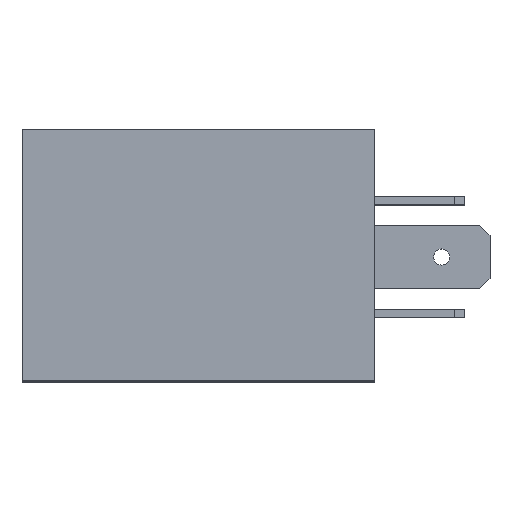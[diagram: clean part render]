
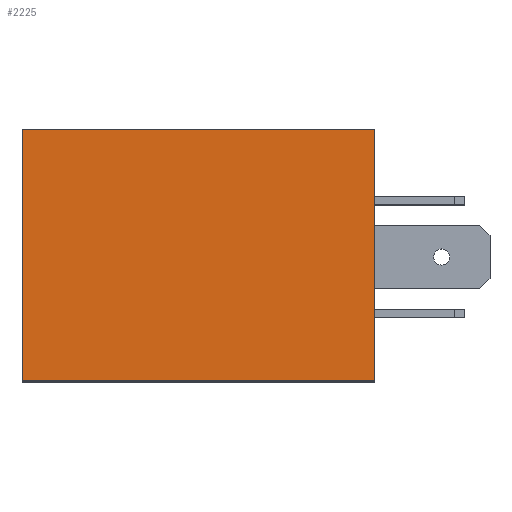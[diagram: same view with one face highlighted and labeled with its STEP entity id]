
A CAD part, top view. The second image highlights one B-rep face of the part: STEP entity #2225.
In plain terms, the highlighted planar face has unit normal (0, 0, 1).
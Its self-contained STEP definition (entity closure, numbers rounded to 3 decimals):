
#2095=CARTESIAN_POINT('',(17.49,-12.49,41.5));
#2096=VERTEX_POINT('',#2095);
#2097=CARTESIAN_POINT('',(-17.49,-12.49,41.5));
#2098=VERTEX_POINT('',#2097);
#2099=CARTESIAN_POINT('',(17.49,-12.49,41.5));
#2100=DIRECTION('',(-1.0,0.0,0.0));
#2101=VECTOR('',#2100,34.98);
#2102=LINE('',#2099,#2101);
#2103=EDGE_CURVE('',#2096,#2098,#2102,.T.);
#2135=CARTESIAN_POINT('',(-17.49,12.49,41.5));
#2136=VERTEX_POINT('',#2135);
#2137=CARTESIAN_POINT('',(-17.49,-12.49,41.5));
#2138=DIRECTION('',(0.0,1.0,0.0));
#2139=VECTOR('',#2138,24.98);
#2140=LINE('',#2137,#2139);
#2141=EDGE_CURVE('',#2098,#2136,#2140,.T.);
#2166=CARTESIAN_POINT('',(17.49,12.49,41.5));
#2167=VERTEX_POINT('',#2166);
#2168=CARTESIAN_POINT('',(-17.49,12.49,41.5));
#2169=DIRECTION('',(1.0,0.0,0.0));
#2170=VECTOR('',#2169,34.98);
#2171=LINE('',#2168,#2170);
#2172=EDGE_CURVE('',#2136,#2167,#2171,.T.);
#2197=CARTESIAN_POINT('',(17.49,12.49,41.5));
#2198=DIRECTION('',(0.0,-1.0,0.0));
#2199=VECTOR('',#2198,24.98);
#2200=LINE('',#2197,#2199);
#2201=EDGE_CURVE('',#2167,#2096,#2200,.T.);
#2214=CARTESIAN_POINT('',(0.,0.,41.5));
#2215=DIRECTION('',(0.0,0.0,1.0));
#2216=DIRECTION('',(1.0,0.0,0.0));
#2217=AXIS2_PLACEMENT_3D('',#2214,#2215,#2216);
#2218=PLANE('',#2217);
#2219=ORIENTED_EDGE('',*,*,#2103,.F.);
#2220=ORIENTED_EDGE('',*,*,#2201,.F.);
#2221=ORIENTED_EDGE('',*,*,#2172,.F.);
#2222=ORIENTED_EDGE('',*,*,#2141,.F.);
#2223=EDGE_LOOP('',(#2219,#2220,#2221,#2222));
#2224=FACE_OUTER_BOUND('',#2223,.T.);
#2225=ADVANCED_FACE('',(#2224),#2218,.T.);
